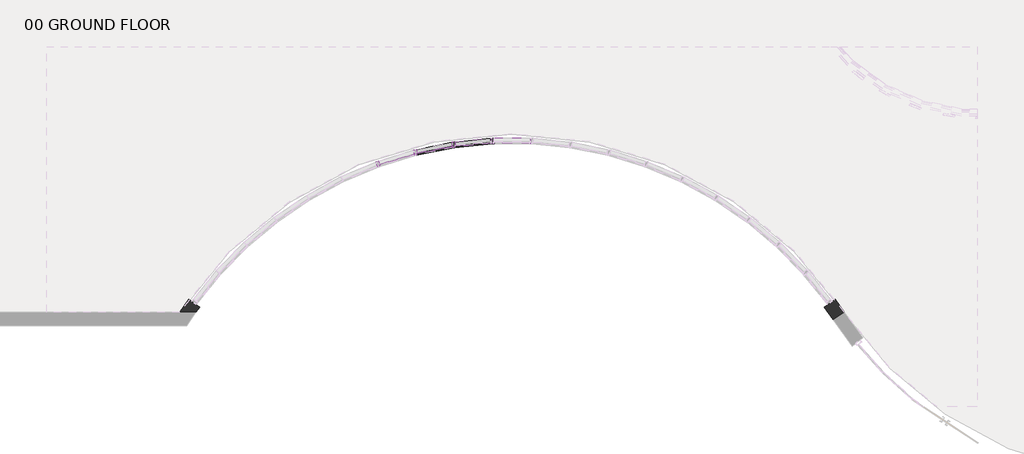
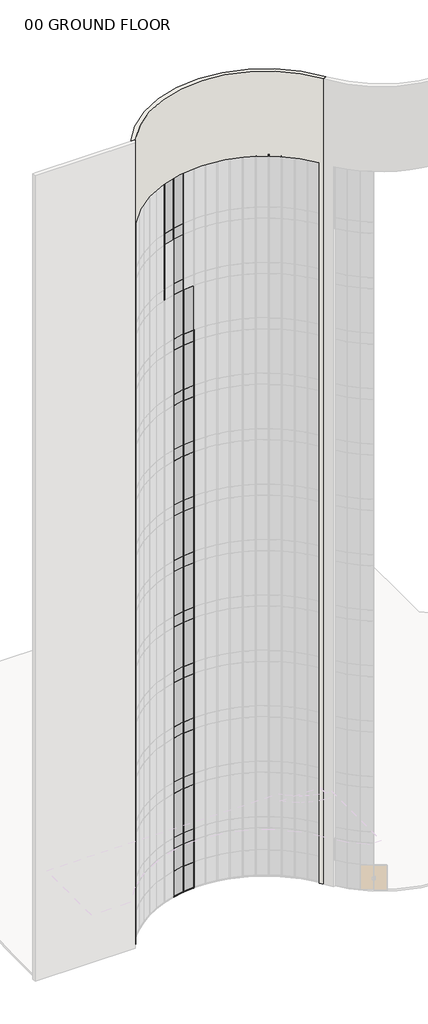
# One storey, part 7 of 33: 57 members, 50 plates, 1 wall.
"""IFC4 building model written with IfcOpenShell, lengths in millimetres."""

from ifc_helpers import new_model, si_unit, frame, origin, place, context, project, spatial, polyline, circle_curve, transform, mapped, element, save
from ifc_brep_helpers import plane_surface, cylinder_surface, revolved_surface, advanced_brep
from components import member_ab6b85c2, member_7cbddb58, member_d60e8053, member_410c6227, member_810865a4, member_9e61c091, system_panel_su_blue_992d2dbe, system_panel_su_blue_f02faf6b, system_panel_su_blue_144861c6, system_panel_su_blue_654c3fe2, system_panel_su_blue_af244712

model = new_model("IFC4")

# Units and contexts
model_context = context("Model", 3, world=origin())
ifc_project = project(units=[si_unit("LENGTHUNIT", "METRE", prefix="MILLI")], contexts=[model_context])

# Site, building, storey
site = spatial("IfcSite", under=ifc_project)
building = spatial("IfcBuilding", under=site)
storey = spatial("IfcBuildingStorey", under=building, Name="00 GROUND FLOOR", Elevation=0.0)

# Members
placement = place(None, origin())
member_shape = member_ab6b85c2(model_context)
element("IfcMember", 1, ObjectType="Rectangular Mullion : 2.5\" x 5\" rectangular", at=placement, inside=storey, context=model_context, shape_type="MappedRepresentation", body=[
    mapped(member_shape, transform((14675.4153922, 4078.3366857, 59436.0), x_axis=(0.0, 0.0, 1.0), y_axis=(0.0, 1.0, 0.0), z_axis=(-1.0, 0.0, 0.0))),
])
element("IfcMember", 2, ObjectType="Rectangular Mullion : 2.5\" x 5\" rectangular", at=placement, inside=storey, context=model_context, shape_type="MappedRepresentation", body=[
    mapped(member_shape, transform((13785.4642747, 3992.639603, 59436.0), x_axis=(0.0, 0.0, 1.0), y_axis=(-0.09936248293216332, 0.9950513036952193, 0.0), z_axis=(-0.9950513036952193, -0.09936248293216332, 0.0))),
])
element("IfcMember", 3, ObjectType="Rectangular Mullion : 2.5\" x 5\" rectangular", at=placement, inside=storey, context=model_context, shape_type="MappedRepresentation", body=[
    mapped(member_shape, transform((14612.0725133, 4075.1819269, 0.0), x_axis=(0.0, 0.0, -1.0), y_axis=(-0.09936248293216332, 0.9950513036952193, 0.0), z_axis=(0.9950513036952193, 0.09936248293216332, 0.0))),
])
element("IfcMember", 4, ObjectType="Rectangular Mullion : 2.5\" x 5\" rectangular", at=placement, inside=storey, context=model_context, shape_type="MappedRepresentation", body=[
    mapped(member_shape, transform((13722.7483252, 3983.2065504, 0.0), x_axis=(0.0, 0.0, -1.0), y_axis=(-0.19774153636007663, 0.9802541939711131, 0.0), z_axis=(0.9802541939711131, 0.19774153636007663, 0.0))),
])
member_2_shape = member_7cbddb58(model_context)
element("IfcMember", 5, ObjectType="Rectangular Mullion : 2.5\" x 5\" rectangular", at=placement, inside=storey, context=model_context, shape_type="MappedRepresentation", body=[
    mapped(member_2_shape, transform((14643.6653922, 4078.3366857, 0.0), x_axis=(-0.9987620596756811, -0.04974282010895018, 0.0), y_axis=(-0.04974282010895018, 0.9987620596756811, 0.0), z_axis=(0.0, 0.0, -1.0))),
])
element("IfcMember", 6, ObjectType="Rectangular Mullion : 2.5\" x 5\" rectangular", at=placement, inside=storey, context=model_context, shape_type="MappedRepresentation", body=[
    mapped(member_2_shape, transform((13753.8713958, 3989.4848442, 0.0), x_axis=(-0.9888769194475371, -0.14873613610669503, 0.0), y_axis=(-0.14873613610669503, 0.9888769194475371, 0.0), z_axis=(0.0, 0.0, -1.0))),
])
member_3_shape = member_d60e8053(model_context)
element("IfcMember", 7, ObjectType="Rectangular Mullion : 2.5\" x 5\" rectangular", at=placement, inside=storey, context=model_context, shape_type="MappedRepresentation", body=[
    mapped(member_3_shape, transform((14643.6653922, 4078.3366857, 2133.6), x_axis=(-0.9987620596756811, -0.04974282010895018, 0.0), y_axis=(-0.04974282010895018, 0.9987620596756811, 0.0), z_axis=(0.0, 0.0, -1.0))),
])
element("IfcMember", 8, ObjectType="Rectangular Mullion : 2.5\" x 5\" rectangular", at=placement, inside=storey, context=model_context, shape_type="MappedRepresentation", body=[
    mapped(member_3_shape, transform((13753.8713958, 3989.4848442, 2133.6), x_axis=(-0.9888769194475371, -0.14873613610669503, 0.0), y_axis=(-0.14873613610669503, 0.9888769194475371, 0.0), z_axis=(0.0, 0.0, -1.0))),
])
member_4_shape = member_410c6227(model_context)
element("IfcMember", 9, ObjectType="Rectangular Mullion : 2.5\" x 5\" rectangular", at=placement, inside=storey, context=model_context, shape_type="MappedRepresentation", body=[
    mapped(member_4_shape, transform((14643.6653922, 4078.3366857, 3962.4), x_axis=(-0.9987620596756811, -0.04974282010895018, 0.0), y_axis=(-0.04974282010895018, 0.9987620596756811, 0.0), z_axis=(0.0, 0.0, -1.0))),
])
element("IfcMember", 10, ObjectType="Rectangular Mullion : 2.5\" x 5\" rectangular", at=placement, inside=storey, context=model_context, shape_type="MappedRepresentation", body=[
    mapped(member_4_shape, transform((13753.8713958, 3989.4848442, 3962.4), x_axis=(-0.9888769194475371, -0.14873613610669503, 0.0), y_axis=(-0.14873613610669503, 0.9888769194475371, 0.0), z_axis=(0.0, 0.0, -1.0))),
])
element("IfcMember", 11, ObjectType="Rectangular Mullion : 2.5\" x 5\" rectangular", at=placement, inside=storey, context=model_context, shape_type="MappedRepresentation", body=[
    mapped(member_4_shape, transform((14643.6653922, 4078.3366857, 8534.4), x_axis=(-0.998762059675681, -0.049742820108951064, 0.0), y_axis=(-0.049742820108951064, 0.998762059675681, 0.0), z_axis=(0.0, 0.0, -1.0))),
])
element("IfcMember", 12, ObjectType="Rectangular Mullion : 2.5\" x 5\" rectangular", at=placement, inside=storey, context=model_context, shape_type="MappedRepresentation", body=[
    mapped(member_4_shape, transform((13753.8713958, 3989.4848442, 8534.4), x_axis=(-0.9888769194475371, -0.14873613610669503, 0.0), y_axis=(-0.14873613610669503, 0.9888769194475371, 0.0), z_axis=(0.0, 0.0, -1.0))),
])
element("IfcMember", 13, ObjectType="Rectangular Mullion : 2.5\" x 5\" rectangular", at=placement, inside=storey, context=model_context, shape_type="MappedRepresentation", body=[
    mapped(member_4_shape, transform((14643.6653922, 4078.3366857, 13106.4), x_axis=(-0.998762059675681, -0.049742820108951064, 0.0), y_axis=(-0.049742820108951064, 0.998762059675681, 0.0), z_axis=(0.0, 0.0, -1.0))),
])
element("IfcMember", 14, ObjectType="Rectangular Mullion : 2.5\" x 5\" rectangular", at=placement, inside=storey, context=model_context, shape_type="MappedRepresentation", body=[
    mapped(member_4_shape, transform((13753.8713958, 3989.4848442, 13106.4), x_axis=(-0.9888769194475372, -0.14873613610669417, 0.0), y_axis=(-0.14873613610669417, 0.9888769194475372, 0.0), z_axis=(0.0, 0.0, -1.0))),
])
element("IfcMember", 15, ObjectType="Rectangular Mullion : 2.5\" x 5\" rectangular", at=placement, inside=storey, context=model_context, shape_type="MappedRepresentation", body=[
    mapped(member_4_shape, transform((14643.6653922, 4078.3366857, 17678.4), x_axis=(-0.998762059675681, -0.049742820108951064, 0.0), y_axis=(-0.049742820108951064, 0.998762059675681, 0.0), z_axis=(0.0, 0.0, -1.0))),
])
element("IfcMember", 16, ObjectType="Rectangular Mullion : 2.5\" x 5\" rectangular", at=placement, inside=storey, context=model_context, shape_type="MappedRepresentation", body=[
    mapped(member_4_shape, transform((13753.8713958, 3989.4848442, 17678.4), x_axis=(-0.9888769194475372, -0.14873613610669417, 0.0), y_axis=(-0.14873613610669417, 0.9888769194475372, 0.0), z_axis=(0.0, 0.0, -1.0))),
])
element("IfcMember", 17, ObjectType="Rectangular Mullion : 2.5\" x 5\" rectangular", at=placement, inside=storey, context=model_context, shape_type="MappedRepresentation", body=[
    mapped(member_4_shape, transform((14643.6653922, 4078.3366857, 22250.4), x_axis=(-0.9987620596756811, -0.04974282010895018, 0.0), y_axis=(-0.04974282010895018, 0.9987620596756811, 0.0), z_axis=(0.0, 0.0, -1.0))),
])
element("IfcMember", 18, ObjectType="Rectangular Mullion : 2.5\" x 5\" rectangular", at=placement, inside=storey, context=model_context, shape_type="MappedRepresentation", body=[
    mapped(member_4_shape, transform((13753.8713958, 3989.4848442, 22250.4), x_axis=(-0.9888769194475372, -0.14873613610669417, 0.0), y_axis=(-0.14873613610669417, 0.9888769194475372, 0.0), z_axis=(0.0, 0.0, -1.0))),
])
element("IfcMember", 19, ObjectType="Rectangular Mullion : 2.5\" x 5\" rectangular", at=placement, inside=storey, context=model_context, shape_type="MappedRepresentation", body=[
    mapped(member_4_shape, transform((14643.6653922, 4078.3366857, 26822.4), x_axis=(-0.9987620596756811, -0.04974282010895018, 0.0), y_axis=(-0.04974282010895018, 0.9987620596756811, 0.0), z_axis=(0.0, 0.0, -1.0))),
])
element("IfcMember", 20, ObjectType="Rectangular Mullion : 2.5\" x 5\" rectangular", at=placement, inside=storey, context=model_context, shape_type="MappedRepresentation", body=[
    mapped(member_4_shape, transform((13753.8713958, 3989.4848442, 26822.4), x_axis=(-0.9888769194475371, -0.14873613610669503, 0.0), y_axis=(-0.14873613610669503, 0.9888769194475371, 0.0), z_axis=(0.0, 0.0, -1.0))),
])
element("IfcMember", 21, ObjectType="Rectangular Mullion : 2.5\" x 5\" rectangular", at=placement, inside=storey, context=model_context, shape_type="MappedRepresentation", body=[
    mapped(member_4_shape, transform((14643.6653922, 4078.3366857, 31394.4), x_axis=(-0.9987620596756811, -0.04974282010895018, 0.0), y_axis=(-0.04974282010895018, 0.9987620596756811, 0.0), z_axis=(0.0, 0.0, -1.0))),
])
element("IfcMember", 22, ObjectType="Rectangular Mullion : 2.5\" x 5\" rectangular", at=placement, inside=storey, context=model_context, shape_type="MappedRepresentation", body=[
    mapped(member_4_shape, transform((13753.8713958, 3989.4848442, 31394.4), x_axis=(-0.9888769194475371, -0.14873613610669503, 0.0), y_axis=(-0.14873613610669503, 0.9888769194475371, 0.0), z_axis=(0.0, 0.0, -1.0))),
])
element("IfcMember", 23, ObjectType="Rectangular Mullion : 2.5\" x 5\" rectangular", at=placement, inside=storey, context=model_context, shape_type="MappedRepresentation", body=[
    mapped(member_4_shape, transform((14643.6653922, 4078.3366857, 35966.4), x_axis=(-0.9987620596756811, -0.04974282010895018, 0.0), y_axis=(-0.04974282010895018, 0.9987620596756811, 0.0), z_axis=(0.0, 0.0, -1.0))),
])
element("IfcMember", 24, ObjectType="Rectangular Mullion : 2.5\" x 5\" rectangular", at=placement, inside=storey, context=model_context, shape_type="MappedRepresentation", body=[
    mapped(member_4_shape, transform((13753.8713958, 3989.4848442, 35966.4), x_axis=(-0.9888769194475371, -0.14873613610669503, 0.0), y_axis=(-0.14873613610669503, 0.9888769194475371, 0.0), z_axis=(0.0, 0.0, -1.0))),
])
element("IfcMember", 25, ObjectType="Rectangular Mullion : 2.5\" x 5\" rectangular", at=placement, inside=storey, context=model_context, shape_type="MappedRepresentation", body=[
    mapped(member_4_shape, transform((14643.6653922, 4078.3366857, 40538.4), x_axis=(-0.9987620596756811, -0.04974282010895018, 0.0), y_axis=(-0.04974282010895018, 0.9987620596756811, 0.0), z_axis=(0.0, 0.0, -1.0))),
])
element("IfcMember", 26, ObjectType="Rectangular Mullion : 2.5\" x 5\" rectangular", at=placement, inside=storey, context=model_context, shape_type="MappedRepresentation", body=[
    mapped(member_4_shape, transform((13753.8713958, 3989.4848442, 40538.4), x_axis=(-0.9888769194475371, -0.14873613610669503, 0.0), y_axis=(-0.14873613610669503, 0.9888769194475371, 0.0), z_axis=(0.0, 0.0, -1.0))),
])
element("IfcMember", 27, ObjectType="Rectangular Mullion : 2.5\" x 5\" rectangular", at=placement, inside=storey, context=model_context, shape_type="MappedRepresentation", body=[
    mapped(member_4_shape, transform((14643.6653922, 4078.3366857, 45110.4), x_axis=(-0.9987620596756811, -0.04974282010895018, 0.0), y_axis=(-0.04974282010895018, 0.9987620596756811, 0.0), z_axis=(0.0, 0.0, -1.0))),
])
element("IfcMember", 28, ObjectType="Rectangular Mullion : 2.5\" x 5\" rectangular", at=placement, inside=storey, context=model_context, shape_type="MappedRepresentation", body=[
    mapped(member_4_shape, transform((13753.8713958, 3989.4848442, 45110.4), x_axis=(-0.9888769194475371, -0.14873613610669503, 0.0), y_axis=(-0.14873613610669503, 0.9888769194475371, 0.0), z_axis=(0.0, 0.0, -1.0))),
])
element("IfcMember", 29, ObjectType="Rectangular Mullion : 2.5\" x 5\" rectangular", at=placement, inside=storey, context=model_context, shape_type="MappedRepresentation", body=[
    mapped(member_4_shape, transform((13753.8713958, 3989.4848442, 49682.4), x_axis=(-0.9888769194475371, -0.14873613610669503, 0.0), y_axis=(-0.14873613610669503, 0.9888769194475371, 0.0), z_axis=(0.0, 0.0, -1.0))),
])
element("IfcMember", 30, ObjectType="Rectangular Mullion : 2.5\" x 5\" rectangular", at=placement, inside=storey, context=model_context, shape_type="MappedRepresentation", body=[
    mapped(member_4_shape, transform((12022.6546623, 3549.6139404, 49682.4), x_axis=(-0.9399394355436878, -0.34134126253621, 0.0), y_axis=(-0.34134126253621, 0.9399394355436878, 0.0), z_axis=(0.0, 0.0, -1.0))),
])
element("IfcMember", 31, ObjectType="Rectangular Mullion : 2.5\" x 5\" rectangular", at=placement, inside=storey, context=model_context, shape_type="MappedRepresentation", body=[
    mapped(member_4_shape, transform((13753.8713958, 3989.4848442, 54254.4), x_axis=(-0.9888769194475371, -0.14873613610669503, 0.0), y_axis=(-0.14873613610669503, 0.9888769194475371, 0.0), z_axis=(0.0, 0.0, -1.0))),
])
element("IfcMember", 32, ObjectType="Rectangular Mullion : 2.5\" x 5\" rectangular", at=placement, inside=storey, context=model_context, shape_type="MappedRepresentation", body=[
    mapped(member_4_shape, transform((12877.3092593, 3812.6605626, 54254.4), x_axis=(-0.9692044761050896, -0.24625735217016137, 0.0), y_axis=(-0.24625735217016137, 0.9692044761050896, 0.0), z_axis=(0.0, 0.0, -1.0))),
])
element("IfcMember", 33, ObjectType="Rectangular Mullion : 2.5\" x 5\" rectangular", at=placement, inside=storey, context=model_context, shape_type="MappedRepresentation", body=[
    mapped(member_4_shape, transform((12022.6546623, 3549.6139404, 54254.4), x_axis=(-0.9399394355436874, -0.3413412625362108, 0.0), y_axis=(-0.3413412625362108, 0.9399394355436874, 0.0), z_axis=(0.0, 0.0, -1.0))),
])
member_5_shape = member_810865a4(model_context)
element("IfcMember", 34, ObjectType="Rectangular Mullion : 2.5\" x 5\" rectangular", at=placement, inside=storey, context=model_context, shape_type="MappedRepresentation", body=[
    mapped(member_5_shape, transform((14643.6653922, 4078.3366857, 4876.8), x_axis=(-0.998762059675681, -0.049742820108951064, 0.0), y_axis=(-0.049742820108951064, 0.998762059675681, 0.0), z_axis=(0.0, 0.0, -1.0))),
])
element("IfcMember", 35, ObjectType="Rectangular Mullion : 2.5\" x 5\" rectangular", at=placement, inside=storey, context=model_context, shape_type="MappedRepresentation", body=[
    mapped(member_5_shape, transform((13753.8713958, 3989.4848442, 4876.8), x_axis=(-0.9888769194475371, -0.14873613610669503, 0.0), y_axis=(-0.14873613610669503, 0.9888769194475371, 0.0), z_axis=(0.0, 0.0, -1.0))),
])
element("IfcMember", 36, ObjectType="Rectangular Mullion : 2.5\" x 5\" rectangular", at=placement, inside=storey, context=model_context, shape_type="MappedRepresentation", body=[
    mapped(member_5_shape, transform((14643.6653922, 4078.3366857, 9448.8), x_axis=(-0.998762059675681, -0.049742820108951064, 0.0), y_axis=(-0.049742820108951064, 0.998762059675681, 0.0), z_axis=(0.0, 0.0, -1.0))),
])
element("IfcMember", 37, ObjectType="Rectangular Mullion : 2.5\" x 5\" rectangular", at=placement, inside=storey, context=model_context, shape_type="MappedRepresentation", body=[
    mapped(member_5_shape, transform((13753.8713958, 3989.4848442, 9448.8), x_axis=(-0.9888769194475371, -0.14873613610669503, 0.0), y_axis=(-0.14873613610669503, 0.9888769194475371, 0.0), z_axis=(0.0, 0.0, -1.0))),
])
element("IfcMember", 38, ObjectType="Rectangular Mullion : 2.5\" x 5\" rectangular", at=placement, inside=storey, context=model_context, shape_type="MappedRepresentation", body=[
    mapped(member_5_shape, transform((14643.6653922, 4078.3366857, 14020.8), x_axis=(-0.998762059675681, -0.049742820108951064, 0.0), y_axis=(-0.049742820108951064, 0.998762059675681, 0.0), z_axis=(0.0, 0.0, -1.0))),
])
element("IfcMember", 39, ObjectType="Rectangular Mullion : 2.5\" x 5\" rectangular", at=placement, inside=storey, context=model_context, shape_type="MappedRepresentation", body=[
    mapped(member_5_shape, transform((13753.8713958, 3989.4848442, 14020.8), x_axis=(-0.9888769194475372, -0.14873613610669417, 0.0), y_axis=(-0.14873613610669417, 0.9888769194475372, 0.0), z_axis=(0.0, 0.0, -1.0))),
])
element("IfcMember", 40, ObjectType="Rectangular Mullion : 2.5\" x 5\" rectangular", at=placement, inside=storey, context=model_context, shape_type="MappedRepresentation", body=[
    mapped(member_5_shape, transform((14643.6653922, 4078.3366857, 18592.8), x_axis=(-0.9987620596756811, -0.04974282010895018, 0.0), y_axis=(-0.04974282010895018, 0.9987620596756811, 0.0), z_axis=(0.0, 0.0, -1.0))),
])
element("IfcMember", 41, ObjectType="Rectangular Mullion : 2.5\" x 5\" rectangular", at=placement, inside=storey, context=model_context, shape_type="MappedRepresentation", body=[
    mapped(member_5_shape, transform((13753.8713958, 3989.4848442, 18592.8), x_axis=(-0.9888769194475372, -0.14873613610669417, 0.0), y_axis=(-0.14873613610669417, 0.9888769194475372, 0.0), z_axis=(0.0, 0.0, -1.0))),
])
element("IfcMember", 42, ObjectType="Rectangular Mullion : 2.5\" x 5\" rectangular", at=placement, inside=storey, context=model_context, shape_type="MappedRepresentation", body=[
    mapped(member_5_shape, transform((14643.6653922, 4078.3366857, 23164.8), x_axis=(-0.9987620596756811, -0.04974282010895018, 0.0), y_axis=(-0.04974282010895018, 0.9987620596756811, 0.0), z_axis=(0.0, 0.0, -1.0))),
])
element("IfcMember", 43, ObjectType="Rectangular Mullion : 2.5\" x 5\" rectangular", at=placement, inside=storey, context=model_context, shape_type="MappedRepresentation", body=[
    mapped(member_5_shape, transform((13753.8713958, 3989.4848442, 23164.8), x_axis=(-0.9888769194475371, -0.14873613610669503, 0.0), y_axis=(-0.14873613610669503, 0.9888769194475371, 0.0), z_axis=(0.0, 0.0, -1.0))),
])
element("IfcMember", 44, ObjectType="Rectangular Mullion : 2.5\" x 5\" rectangular", at=placement, inside=storey, context=model_context, shape_type="MappedRepresentation", body=[
    mapped(member_5_shape, transform((14643.6653922, 4078.3366857, 27736.8), x_axis=(-0.9987620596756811, -0.04974282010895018, 0.0), y_axis=(-0.04974282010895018, 0.9987620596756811, 0.0), z_axis=(0.0, 0.0, -1.0))),
])
element("IfcMember", 45, ObjectType="Rectangular Mullion : 2.5\" x 5\" rectangular", at=placement, inside=storey, context=model_context, shape_type="MappedRepresentation", body=[
    mapped(member_5_shape, transform((13753.8713958, 3989.4848442, 27736.8), x_axis=(-0.9888769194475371, -0.14873613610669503, 0.0), y_axis=(-0.14873613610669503, 0.9888769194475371, 0.0), z_axis=(0.0, 0.0, -1.0))),
])
element("IfcMember", 46, ObjectType="Rectangular Mullion : 2.5\" x 5\" rectangular", at=placement, inside=storey, context=model_context, shape_type="MappedRepresentation", body=[
    mapped(member_5_shape, transform((14643.6653922, 4078.3366857, 32308.8), x_axis=(-0.9987620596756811, -0.04974282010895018, 0.0), y_axis=(-0.04974282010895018, 0.9987620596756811, 0.0), z_axis=(0.0, 0.0, -1.0))),
])
element("IfcMember", 47, ObjectType="Rectangular Mullion : 2.5\" x 5\" rectangular", at=placement, inside=storey, context=model_context, shape_type="MappedRepresentation", body=[
    mapped(member_5_shape, transform((13753.8713958, 3989.4848442, 32308.8), x_axis=(-0.988876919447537, -0.14873613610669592, 0.0), y_axis=(-0.14873613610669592, 0.988876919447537, 0.0), z_axis=(0.0, 0.0, -1.0))),
])
element("IfcMember", 48, ObjectType="Rectangular Mullion : 2.5\" x 5\" rectangular", at=placement, inside=storey, context=model_context, shape_type="MappedRepresentation", body=[
    mapped(member_5_shape, transform((14643.6653922, 4078.3366857, 36880.8), x_axis=(-0.9987620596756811, -0.04974282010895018, 0.0), y_axis=(-0.04974282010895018, 0.9987620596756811, 0.0), z_axis=(0.0, 0.0, -1.0))),
])
element("IfcMember", 49, ObjectType="Rectangular Mullion : 2.5\" x 5\" rectangular", at=placement, inside=storey, context=model_context, shape_type="MappedRepresentation", body=[
    mapped(member_5_shape, transform((13753.8713958, 3989.4848442, 36880.8), x_axis=(-0.9888769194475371, -0.14873613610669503, 0.0), y_axis=(-0.14873613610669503, 0.9888769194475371, 0.0), z_axis=(0.0, 0.0, -1.0))),
])
element("IfcMember", 50, ObjectType="Rectangular Mullion : 2.5\" x 5\" rectangular", at=placement, inside=storey, context=model_context, shape_type="MappedRepresentation", body=[
    mapped(member_5_shape, transform((14643.6653922, 4078.3366857, 41452.8), x_axis=(-0.9987620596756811, -0.04974282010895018, 0.0), y_axis=(-0.04974282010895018, 0.9987620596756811, 0.0), z_axis=(0.0, 0.0, -1.0))),
])
element("IfcMember", 51, ObjectType="Rectangular Mullion : 2.5\" x 5\" rectangular", at=placement, inside=storey, context=model_context, shape_type="MappedRepresentation", body=[
    mapped(member_5_shape, transform((13753.8713958, 3989.4848442, 41452.8), x_axis=(-0.9888769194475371, -0.14873613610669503, 0.0), y_axis=(-0.14873613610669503, 0.9888769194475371, 0.0), z_axis=(0.0, 0.0, -1.0))),
])
element("IfcMember", 52, ObjectType="Rectangular Mullion : 2.5\" x 5\" rectangular", at=placement, inside=storey, context=model_context, shape_type="MappedRepresentation", body=[
    mapped(member_5_shape, transform((13753.8713958, 3989.4848442, 46024.8), x_axis=(-0.9888769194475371, -0.14873613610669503, 0.0), y_axis=(-0.14873613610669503, 0.9888769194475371, 0.0), z_axis=(0.0, 0.0, -1.0))),
])
element("IfcMember", 53, ObjectType="Rectangular Mullion : 2.5\" x 5\" rectangular", at=placement, inside=storey, context=model_context, shape_type="MappedRepresentation", body=[
    mapped(member_5_shape, transform((13753.8713958, 3989.4848442, 50596.8), x_axis=(-0.9888769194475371, -0.14873613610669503, 0.0), y_axis=(-0.14873613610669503, 0.9888769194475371, 0.0), z_axis=(0.0, 0.0, -1.0))),
])
element("IfcMember", 54, ObjectType="Rectangular Mullion : 2.5\" x 5\" rectangular", at=placement, inside=storey, context=model_context, shape_type="MappedRepresentation", body=[
    mapped(member_5_shape, transform((12022.6546623, 3549.6139404, 50596.8), x_axis=(-0.9399394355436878, -0.34134126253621, 0.0), y_axis=(-0.34134126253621, 0.9399394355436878, 0.0), z_axis=(0.0, 0.0, -1.0))),
])
member_6_shape = member_9e61c091(model_context)
element("IfcMember", 55, ObjectType="Rectangular Mullion : 2.5\" x 5\" rectangular", at=placement, inside=storey, context=model_context, shape_type="MappedRepresentation", body=[
    mapped(member_6_shape, transform((13753.8713958, 3989.4848442, 55168.8), x_axis=(-0.9888769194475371, -0.14873613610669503, 0.0), y_axis=(-0.14873613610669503, 0.9888769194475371, 0.0), z_axis=(0.0, 0.0, -1.0))),
])
element("IfcMember", 56, ObjectType="Rectangular Mullion : 2.5\" x 5\" rectangular", at=placement, inside=storey, context=model_context, shape_type="MappedRepresentation", body=[
    mapped(member_6_shape, transform((12877.3092593, 3812.6605626, 55168.8), x_axis=(-0.9692044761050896, -0.24625735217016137, 0.0), y_axis=(-0.24625735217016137, 0.9692044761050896, 0.0), z_axis=(0.0, 0.0, -1.0))),
])
element("IfcMember", 57, ObjectType="Rectangular Mullion : 2.5\" x 5\" rectangular", at=placement, inside=storey, context=model_context, shape_type="MappedRepresentation", body=[
    mapped(member_6_shape, transform((12022.6546623, 3549.6139404, 55168.8), x_axis=(-0.9399394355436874, -0.3413412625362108, 0.0), y_axis=(-0.3413412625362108, 0.9399394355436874, 0.0), z_axis=(0.0, 0.0, -1.0))),
])

# Plates
system_panel_su_blue_shape = system_panel_su_blue_992d2dbe(model_context)
element("IfcPlate", 58, ObjectType="System Panel : SU_BLUE", at=placement, inside=storey, context=model_context, shape_type="MappedRepresentation", body=[
    mapped(system_panel_su_blue_shape, transform((14198.768394, 4033.910765, 63.5), x_axis=(-0.9950513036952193, -0.09936248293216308, 0.0), y_axis=(0.09936248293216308, -0.9950513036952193, 0.0), z_axis=(0.0, 0.0, 1.0))),
])
element("IfcPlate", 59, ObjectType="System Panel : SU_BLUE", at=placement, inside=storey, context=model_context, shape_type="MappedRepresentation", body=[
    mapped(system_panel_su_blue_shape, transform((13315.5903276, 3901.0727034, 63.5), x_axis=(-0.9802541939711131, -0.19774153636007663, 0.0), y_axis=(0.19774153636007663, -0.9802541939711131, 0.0), z_axis=(0.0, 0.0, 1.0))),
])
system_panel_su_blue_2_shape = system_panel_su_blue_f02faf6b(model_context)
element("IfcPlate", 60, ObjectType="System Panel : SU_BLUE", at=placement, inside=storey, context=model_context, shape_type="MappedRepresentation", body=[
    mapped(system_panel_su_blue_2_shape, transform((14198.768394, 4033.910765, 2133.6), x_axis=(-0.9950513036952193, -0.09936248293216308, 0.0), y_axis=(0.09936248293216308, -0.9950513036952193, 0.0), z_axis=(0.0, 0.0, 1.0))),
])
element("IfcPlate", 61, ObjectType="System Panel : SU_BLUE", at=placement, inside=storey, context=model_context, shape_type="MappedRepresentation", body=[
    mapped(system_panel_su_blue_2_shape, transform((13315.5903276, 3901.0727034, 2133.6), x_axis=(-0.9802541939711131, -0.19774153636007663, 0.0), y_axis=(0.19774153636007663, -0.9802541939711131, 0.0), z_axis=(0.0, 0.0, 1.0))),
])
system_panel_su_blue_3_shape = system_panel_su_blue_144861c6(model_context)
element("IfcPlate", 62, ObjectType="System Panel : SU_BLUE", at=placement, inside=storey, context=model_context, shape_type="MappedRepresentation", body=[
    mapped(system_panel_su_blue_3_shape, transform((14198.768394, 4033.910765, 3962.4), x_axis=(-0.9950513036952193, -0.09936248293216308, 0.0), y_axis=(0.09936248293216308, -0.9950513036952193, 0.0), z_axis=(0.0, 0.0, 1.0))),
])
element("IfcPlate", 63, ObjectType="System Panel : SU_BLUE", at=placement, inside=storey, context=model_context, shape_type="MappedRepresentation", body=[
    mapped(system_panel_su_blue_3_shape, transform((13315.5903276, 3901.0727034, 3962.4), x_axis=(-0.9802541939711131, -0.19774153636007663, 0.0), y_axis=(0.19774153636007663, -0.9802541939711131, 0.0), z_axis=(0.0, 0.0, 1.0))),
])
element("IfcPlate", 64, ObjectType="System Panel : SU_BLUE", at=placement, inside=storey, context=model_context, shape_type="MappedRepresentation", body=[
    mapped(system_panel_su_blue_3_shape, transform((14198.768394, 4033.910765, 8534.4), x_axis=(-0.9950513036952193, -0.09936248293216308, 0.0), y_axis=(0.09936248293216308, -0.9950513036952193, 0.0), z_axis=(0.0, 0.0, 1.0))),
])
element("IfcPlate", 65, ObjectType="System Panel : SU_BLUE", at=placement, inside=storey, context=model_context, shape_type="MappedRepresentation", body=[
    mapped(system_panel_su_blue_3_shape, transform((13315.5903276, 3901.0727034, 8534.4), x_axis=(-0.9802541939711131, -0.19774153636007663, 0.0), y_axis=(0.19774153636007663, -0.9802541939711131, 0.0), z_axis=(0.0, 0.0, 1.0))),
])
element("IfcPlate", 66, ObjectType="System Panel : SU_BLUE", at=placement, inside=storey, context=model_context, shape_type="MappedRepresentation", body=[
    mapped(system_panel_su_blue_3_shape, transform((14198.768394, 4033.910765, 13106.4), x_axis=(-0.9950513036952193, -0.09936248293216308, 0.0), y_axis=(0.09936248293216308, -0.9950513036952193, 0.0), z_axis=(0.0, 0.0, 1.0))),
])
element("IfcPlate", 67, ObjectType="System Panel : SU_BLUE", at=placement, inside=storey, context=model_context, shape_type="MappedRepresentation", body=[
    mapped(system_panel_su_blue_3_shape, transform((13315.5903276, 3901.0727034, 13106.4), x_axis=(-0.9802541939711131, -0.19774153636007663, 0.0), y_axis=(0.19774153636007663, -0.9802541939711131, 0.0), z_axis=(0.0, 0.0, 1.0))),
])
element("IfcPlate", 68, ObjectType="System Panel : SU_BLUE", at=placement, inside=storey, context=model_context, shape_type="MappedRepresentation", body=[
    mapped(system_panel_su_blue_3_shape, transform((14198.768394, 4033.910765, 17678.4), x_axis=(-0.9950513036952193, -0.09936248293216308, 0.0), y_axis=(0.09936248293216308, -0.9950513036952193, 0.0), z_axis=(0.0, 0.0, 1.0))),
])
element("IfcPlate", 69, ObjectType="System Panel : SU_BLUE", at=placement, inside=storey, context=model_context, shape_type="MappedRepresentation", body=[
    mapped(system_panel_su_blue_3_shape, transform((13315.5903276, 3901.0727034, 17678.4), x_axis=(-0.9802541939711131, -0.19774153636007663, 0.0), y_axis=(0.19774153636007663, -0.9802541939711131, 0.0), z_axis=(0.0, 0.0, 1.0))),
])
element("IfcPlate", 70, ObjectType="System Panel : SU_BLUE", at=placement, inside=storey, context=model_context, shape_type="MappedRepresentation", body=[
    mapped(system_panel_su_blue_3_shape, transform((14198.768394, 4033.910765, 22250.4), x_axis=(-0.9950513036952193, -0.09936248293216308, 0.0), y_axis=(0.09936248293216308, -0.9950513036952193, 0.0), z_axis=(0.0, 0.0, 1.0))),
])
element("IfcPlate", 71, ObjectType="System Panel : SU_BLUE", at=placement, inside=storey, context=model_context, shape_type="MappedRepresentation", body=[
    mapped(system_panel_su_blue_3_shape, transform((13315.5903276, 3901.0727034, 22250.4), x_axis=(-0.9802541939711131, -0.19774153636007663, 0.0), y_axis=(0.19774153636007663, -0.9802541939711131, 0.0), z_axis=(0.0, 0.0, 1.0))),
])
element("IfcPlate", 72, ObjectType="System Panel : SU_BLUE", at=placement, inside=storey, context=model_context, shape_type="MappedRepresentation", body=[
    mapped(system_panel_su_blue_3_shape, transform((14198.768394, 4033.910765, 26822.4), x_axis=(-0.9950513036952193, -0.09936248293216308, 0.0), y_axis=(0.09936248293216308, -0.9950513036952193, 0.0), z_axis=(0.0, 0.0, 1.0))),
])
element("IfcPlate", 73, ObjectType="System Panel : SU_BLUE", at=placement, inside=storey, context=model_context, shape_type="MappedRepresentation", body=[
    mapped(system_panel_su_blue_3_shape, transform((13315.5903276, 3901.0727034, 26822.4), x_axis=(-0.9802541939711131, -0.19774153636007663, 0.0), y_axis=(0.19774153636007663, -0.9802541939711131, 0.0), z_axis=(0.0, 0.0, 1.0))),
])
element("IfcPlate", 74, ObjectType="System Panel : SU_BLUE", at=placement, inside=storey, context=model_context, shape_type="MappedRepresentation", body=[
    mapped(system_panel_su_blue_3_shape, transform((14198.768394, 4033.910765, 31394.4), x_axis=(-0.9950513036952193, -0.09936248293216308, 0.0), y_axis=(0.09936248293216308, -0.9950513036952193, 0.0), z_axis=(0.0, 0.0, 1.0))),
])
element("IfcPlate", 75, ObjectType="System Panel : SU_BLUE", at=placement, inside=storey, context=model_context, shape_type="MappedRepresentation", body=[
    mapped(system_panel_su_blue_3_shape, transform((13315.5903276, 3901.0727034, 31394.4), x_axis=(-0.9802541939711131, -0.19774153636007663, 0.0), y_axis=(0.19774153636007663, -0.9802541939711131, 0.0), z_axis=(0.0, 0.0, 1.0))),
])
element("IfcPlate", 76, ObjectType="System Panel : SU_BLUE", at=placement, inside=storey, context=model_context, shape_type="MappedRepresentation", body=[
    mapped(system_panel_su_blue_3_shape, transform((14198.768394, 4033.910765, 35966.4), x_axis=(-0.9950513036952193, -0.09936248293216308, 0.0), y_axis=(0.09936248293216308, -0.9950513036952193, 0.0), z_axis=(0.0, 0.0, 1.0))),
])
element("IfcPlate", 77, ObjectType="System Panel : SU_BLUE", at=placement, inside=storey, context=model_context, shape_type="MappedRepresentation", body=[
    mapped(system_panel_su_blue_3_shape, transform((13315.5903276, 3901.0727034, 35966.4), x_axis=(-0.9802541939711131, -0.19774153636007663, 0.0), y_axis=(0.19774153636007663, -0.9802541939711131, 0.0), z_axis=(0.0, 0.0, 1.0))),
])
element("IfcPlate", 78, ObjectType="System Panel : SU_BLUE", at=placement, inside=storey, context=model_context, shape_type="MappedRepresentation", body=[
    mapped(system_panel_su_blue_3_shape, transform((14198.768394, 4033.910765, 40538.4), x_axis=(-0.9950513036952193, -0.09936248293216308, 0.0), y_axis=(0.09936248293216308, -0.9950513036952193, 0.0), z_axis=(0.0, 0.0, 1.0))),
])
element("IfcPlate", 79, ObjectType="System Panel : SU_BLUE", at=placement, inside=storey, context=model_context, shape_type="MappedRepresentation", body=[
    mapped(system_panel_su_blue_3_shape, transform((13315.5903276, 3901.0727034, 40538.4), x_axis=(-0.9802541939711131, -0.19774153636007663, 0.0), y_axis=(0.19774153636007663, -0.9802541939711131, 0.0), z_axis=(0.0, 0.0, 1.0))),
])
element("IfcPlate", 80, ObjectType="System Panel : SU_BLUE", at=placement, inside=storey, context=model_context, shape_type="MappedRepresentation", body=[
    mapped(system_panel_su_blue_3_shape, transform((14198.768394, 4033.910765, 45110.4), x_axis=(-0.9950513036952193, -0.09936248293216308, 0.0), y_axis=(0.09936248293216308, -0.9950513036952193, 0.0), z_axis=(0.0, 0.0, 1.0))),
])
element("IfcPlate", 81, ObjectType="System Panel : SU_BLUE", at=placement, inside=storey, context=model_context, shape_type="MappedRepresentation", body=[
    mapped(system_panel_su_blue_3_shape, transform((13315.5903276, 3901.0727034, 45110.4), x_axis=(-0.9802541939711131, -0.19774153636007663, 0.0), y_axis=(0.19774153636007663, -0.9802541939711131, 0.0), z_axis=(0.0, 0.0, 1.0))),
])
element("IfcPlate", 82, ObjectType="System Panel : SU_BLUE", at=placement, inside=storey, context=model_context, shape_type="MappedRepresentation", body=[
    mapped(system_panel_su_blue_3_shape, transform((13315.5903276, 3901.0727034, 49682.4), x_axis=(-0.9802541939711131, -0.19774153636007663, 0.0), y_axis=(0.19774153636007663, -0.9802541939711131, 0.0), z_axis=(0.0, 0.0, 1.0))),
])
element("IfcPlate", 83, ObjectType="System Panel : SU_BLUE", at=placement, inside=storey, context=model_context, shape_type="MappedRepresentation", body=[
    mapped(system_panel_su_blue_3_shape, transform((13315.5903276, 3901.0727034, 54254.4), x_axis=(-0.9802541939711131, -0.19774153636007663, 0.0), y_axis=(0.19774153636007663, -0.9802541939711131, 0.0), z_axis=(0.0, 0.0, 1.0))),
])
element("IfcPlate", 84, ObjectType="System Panel : SU_BLUE", at=placement, inside=storey, context=model_context, shape_type="MappedRepresentation", body=[
    mapped(system_panel_su_blue_3_shape, transform((12449.9819608, 3681.1372515, 54254.4), x_axis=(-0.9557551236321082, -0.2941634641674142, 0.0), y_axis=(0.2941634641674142, -0.9557551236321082, 0.0), z_axis=(0.0, 0.0, 1.0))),
])
system_panel_su_blue_4_shape = system_panel_su_blue_654c3fe2(model_context)
element("IfcPlate", 85, ObjectType="System Panel : SU_BLUE", at=placement, inside=storey, context=model_context, shape_type="MappedRepresentation", body=[
    mapped(system_panel_su_blue_4_shape, transform((14198.768394, 4033.910765, 4876.8), x_axis=(-0.9950513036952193, -0.09936248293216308, 0.0), y_axis=(0.09936248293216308, -0.9950513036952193, 0.0), z_axis=(0.0, 0.0, 1.0))),
])
element("IfcPlate", 86, ObjectType="System Panel : SU_BLUE", at=placement, inside=storey, context=model_context, shape_type="MappedRepresentation", body=[
    mapped(system_panel_su_blue_4_shape, transform((13315.5903276, 3901.0727034, 4876.8), x_axis=(-0.9802541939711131, -0.19774153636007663, 0.0), y_axis=(0.19774153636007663, -0.9802541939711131, 0.0), z_axis=(0.0, 0.0, 1.0))),
])
element("IfcPlate", 87, ObjectType="System Panel : SU_BLUE", at=placement, inside=storey, context=model_context, shape_type="MappedRepresentation", body=[
    mapped(system_panel_su_blue_4_shape, transform((14198.768394, 4033.910765, 9448.8), x_axis=(-0.9950513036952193, -0.09936248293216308, 0.0), y_axis=(0.09936248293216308, -0.9950513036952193, 0.0), z_axis=(0.0, 0.0, 1.0))),
])
element("IfcPlate", 88, ObjectType="System Panel : SU_BLUE", at=placement, inside=storey, context=model_context, shape_type="MappedRepresentation", body=[
    mapped(system_panel_su_blue_4_shape, transform((13315.5903276, 3901.0727034, 9448.8), x_axis=(-0.9802541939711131, -0.19774153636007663, 0.0), y_axis=(0.19774153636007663, -0.9802541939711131, 0.0), z_axis=(0.0, 0.0, 1.0))),
])
element("IfcPlate", 89, ObjectType="System Panel : SU_BLUE", at=placement, inside=storey, context=model_context, shape_type="MappedRepresentation", body=[
    mapped(system_panel_su_blue_4_shape, transform((14198.768394, 4033.910765, 14020.8), x_axis=(-0.9950513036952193, -0.09936248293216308, 0.0), y_axis=(0.09936248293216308, -0.9950513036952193, 0.0), z_axis=(0.0, 0.0, 1.0))),
])
element("IfcPlate", 90, ObjectType="System Panel : SU_BLUE", at=placement, inside=storey, context=model_context, shape_type="MappedRepresentation", body=[
    mapped(system_panel_su_blue_4_shape, transform((13315.5903276, 3901.0727034, 14020.8), x_axis=(-0.9802541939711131, -0.19774153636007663, 0.0), y_axis=(0.19774153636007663, -0.9802541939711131, 0.0), z_axis=(0.0, 0.0, 1.0))),
])
element("IfcPlate", 91, ObjectType="System Panel : SU_BLUE", at=placement, inside=storey, context=model_context, shape_type="MappedRepresentation", body=[
    mapped(system_panel_su_blue_4_shape, transform((14198.768394, 4033.910765, 18592.8), x_axis=(-0.9950513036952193, -0.09936248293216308, 0.0), y_axis=(0.09936248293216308, -0.9950513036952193, 0.0), z_axis=(0.0, 0.0, 1.0))),
])
element("IfcPlate", 92, ObjectType="System Panel : SU_BLUE", at=placement, inside=storey, context=model_context, shape_type="MappedRepresentation", body=[
    mapped(system_panel_su_blue_4_shape, transform((13315.5903276, 3901.0727034, 18592.8), x_axis=(-0.9802541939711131, -0.19774153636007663, 0.0), y_axis=(0.19774153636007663, -0.9802541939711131, 0.0), z_axis=(0.0, 0.0, 1.0))),
])
element("IfcPlate", 93, ObjectType="System Panel : SU_BLUE", at=placement, inside=storey, context=model_context, shape_type="MappedRepresentation", body=[
    mapped(system_panel_su_blue_4_shape, transform((14198.768394, 4033.910765, 23164.8), x_axis=(-0.9950513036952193, -0.09936248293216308, 0.0), y_axis=(0.09936248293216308, -0.9950513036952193, 0.0), z_axis=(0.0, 0.0, 1.0))),
])
element("IfcPlate", 94, ObjectType="System Panel : SU_BLUE", at=placement, inside=storey, context=model_context, shape_type="MappedRepresentation", body=[
    mapped(system_panel_su_blue_4_shape, transform((13315.5903276, 3901.0727034, 23164.8), x_axis=(-0.9802541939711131, -0.19774153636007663, 0.0), y_axis=(0.19774153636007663, -0.9802541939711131, 0.0), z_axis=(0.0, 0.0, 1.0))),
])
element("IfcPlate", 95, ObjectType="System Panel : SU_BLUE", at=placement, inside=storey, context=model_context, shape_type="MappedRepresentation", body=[
    mapped(system_panel_su_blue_4_shape, transform((14198.768394, 4033.910765, 27736.8), x_axis=(-0.9950513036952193, -0.09936248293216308, 0.0), y_axis=(0.09936248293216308, -0.9950513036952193, 0.0), z_axis=(0.0, 0.0, 1.0))),
])
element("IfcPlate", 96, ObjectType="System Panel : SU_BLUE", at=placement, inside=storey, context=model_context, shape_type="MappedRepresentation", body=[
    mapped(system_panel_su_blue_4_shape, transform((13315.5903276, 3901.0727034, 27736.8), x_axis=(-0.9802541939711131, -0.19774153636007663, 0.0), y_axis=(0.19774153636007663, -0.9802541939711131, 0.0), z_axis=(0.0, 0.0, 1.0))),
])
element("IfcPlate", 97, ObjectType="System Panel : SU_BLUE", at=placement, inside=storey, context=model_context, shape_type="MappedRepresentation", body=[
    mapped(system_panel_su_blue_4_shape, transform((14198.768394, 4033.910765, 32308.8), x_axis=(-0.9950513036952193, -0.09936248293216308, 0.0), y_axis=(0.09936248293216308, -0.9950513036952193, 0.0), z_axis=(0.0, 0.0, 1.0))),
])
element("IfcPlate", 98, ObjectType="System Panel : SU_BLUE", at=placement, inside=storey, context=model_context, shape_type="MappedRepresentation", body=[
    mapped(system_panel_su_blue_4_shape, transform((13315.5903276, 3901.0727034, 32308.8), x_axis=(-0.9802541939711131, -0.19774153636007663, 0.0), y_axis=(0.19774153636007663, -0.9802541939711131, 0.0), z_axis=(0.0, 0.0, 1.0))),
])
element("IfcPlate", 99, ObjectType="System Panel : SU_BLUE", at=placement, inside=storey, context=model_context, shape_type="MappedRepresentation", body=[
    mapped(system_panel_su_blue_4_shape, transform((14198.768394, 4033.910765, 36880.8), x_axis=(-0.9950513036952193, -0.09936248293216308, 0.0), y_axis=(0.09936248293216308, -0.9950513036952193, 0.0), z_axis=(0.0, 0.0, 1.0))),
])
element("IfcPlate", 100, ObjectType="System Panel : SU_BLUE", at=placement, inside=storey, context=model_context, shape_type="MappedRepresentation", body=[
    mapped(system_panel_su_blue_4_shape, transform((13315.5903276, 3901.0727034, 36880.8), x_axis=(-0.9802541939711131, -0.19774153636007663, 0.0), y_axis=(0.19774153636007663, -0.9802541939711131, 0.0), z_axis=(0.0, 0.0, 1.0))),
])
element("IfcPlate", 101, ObjectType="System Panel : SU_BLUE", at=placement, inside=storey, context=model_context, shape_type="MappedRepresentation", body=[
    mapped(system_panel_su_blue_4_shape, transform((14198.768394, 4033.910765, 41452.8), x_axis=(-0.9950513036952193, -0.09936248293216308, 0.0), y_axis=(0.09936248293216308, -0.9950513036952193, 0.0), z_axis=(0.0, 0.0, 1.0))),
])
element("IfcPlate", 102, ObjectType="System Panel : SU_BLUE", at=placement, inside=storey, context=model_context, shape_type="MappedRepresentation", body=[
    mapped(system_panel_su_blue_4_shape, transform((13315.5903276, 3901.0727034, 41452.8), x_axis=(-0.9802541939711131, -0.19774153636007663, 0.0), y_axis=(0.19774153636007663, -0.9802541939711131, 0.0), z_axis=(0.0, 0.0, 1.0))),
])
element("IfcPlate", 103, ObjectType="System Panel : SU_BLUE", at=placement, inside=storey, context=model_context, shape_type="MappedRepresentation", body=[
    mapped(system_panel_su_blue_4_shape, transform((14198.768394, 4033.910765, 46024.8), x_axis=(-0.9950513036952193, -0.09936248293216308, 0.0), y_axis=(0.09936248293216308, -0.9950513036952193, 0.0), z_axis=(0.0, 0.0, 1.0))),
])
element("IfcPlate", 104, ObjectType="System Panel : SU_BLUE", at=placement, inside=storey, context=model_context, shape_type="MappedRepresentation", body=[
    mapped(system_panel_su_blue_4_shape, transform((13315.5903276, 3901.0727034, 46024.8), x_axis=(-0.9802541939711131, -0.19774153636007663, 0.0), y_axis=(0.19774153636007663, -0.9802541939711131, 0.0), z_axis=(0.0, 0.0, 1.0))),
])
element("IfcPlate", 105, ObjectType="System Panel : SU_BLUE", at=placement, inside=storey, context=model_context, shape_type="MappedRepresentation", body=[
    mapped(system_panel_su_blue_4_shape, transform((13315.5903276, 3901.0727034, 50596.8), x_axis=(-0.9802541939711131, -0.19774153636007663, 0.0), y_axis=(0.19774153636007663, -0.9802541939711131, 0.0), z_axis=(0.0, 0.0, 1.0))),
])
system_panel_su_blue_5_shape = system_panel_su_blue_af244712(model_context)
element("IfcPlate", 106, ObjectType="System Panel : SU_BLUE", at=placement, inside=storey, context=model_context, shape_type="MappedRepresentation", body=[
    mapped(system_panel_su_blue_5_shape, transform((13315.5903276, 3901.0727034, 55168.8), x_axis=(-0.9802541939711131, -0.19774153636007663, 0.0), y_axis=(0.19774153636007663, -0.9802541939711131, 0.0), z_axis=(0.0, 0.0, 1.0))),
])
element("IfcPlate", 107, ObjectType="System Panel : SU_BLUE", at=placement, inside=storey, context=model_context, shape_type="MappedRepresentation", body=[
    mapped(system_panel_su_blue_5_shape, transform((12449.9819608, 3681.1372515, 55168.8), x_axis=(-0.9557551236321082, -0.2941634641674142, 0.0), y_axis=(0.2941634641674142, -0.9557551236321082, 0.0), z_axis=(0.0, 0.0, 1.0))),
])

# Wall
element("IfcWall", 108, ObjectType="Exterior - MAIN EIFS WITH LGMF", at=placement, inside=storey, context=model_context, shape_type="AdvancedBrep", body=[
    advanced_brep(
    [(7847.0947805, 155.575, 66446.4), (22451.4833333, -16.4196339, 66446.4), (22710.775, 155.575, 66446.4), (7470.775, 155.575, 66446.4), (22710.775, 155.575, 0.0), (22451.4833333, -16.4196339, 0.0), (22252.3783503, 271.2106325, 0.0), (22504.6562541, 453.3374613, 0.0), (7847.0947805, 155.575, 0.0), (7470.775, 155.575, 0.0), (7676.8937459, 453.3374613, 0.0), (7929.1716497, 271.2106325, 0.0), (7929.1716497, 271.2106325, 59436.0), (22252.3783503, 271.2106325, 59436.0), (22504.6562541, 453.3374613, 59436.0), (7676.8937459, 453.3374613, 59436.0)],
    [
        (0, 1, circle_curve(frame((15090.775, -4898.9611805, 66446.4), z_axis=(0.0, 0.0, -1.0), x_axis=(1.0, 0.0, 0.0)), 8832.85)),
        (1, 2),
        (2, 3, circle_curve(frame((15090.775, -4898.9611805, 66446.4), z_axis=(0.0, 0.0, 1.0), x_axis=(1.0, 0.0, 0.0)), 9144.0)),
        (3, 0),
        (4, 5),
        (5, 6, circle_curve(frame((15090.775, -4898.9611805, 0.0), z_axis=(0.0, 0.0, 1.0), x_axis=(1.0, 0.0, 0.0)), 8832.85)),
        (6, 7),
        (7, 4, circle_curve(frame((15090.775, -4898.9611805, 0.0), z_axis=(0.0, 0.0, -1.0), x_axis=(1.0, 0.0, 0.0)), 9144.0)),
        (8, 9),
        (9, 10, circle_curve(frame((15090.775, -4898.9611805, 0.0), z_axis=(0.0, 0.0, -1.0), x_axis=(1.0, 0.0, 0.0)), 9144.0)),
        (10, 11),
        (11, 8, circle_curve(frame((15090.775, -4898.9611805, 0.0), z_axis=(0.0, 0.0, 1.0), x_axis=(1.0, 0.0, 0.0)), 8832.85)),
        (0, 8),
        (11, 12),
        (12, 13, circle_curve(frame((15090.775, -4898.9611805, 59436.0), z_axis=(0.0, 0.0, -1.0), x_axis=(1.0, 0.0, 0.0)), 8832.85)),
        (13, 6),
        (5, 1),
        (4, 2),
        (7, 14),
        (14, 15, circle_curve(frame((15090.775, -4898.9611805, 59436.0), z_axis=(0.0, 0.0, 1.0), x_axis=(1.0, 0.0, 0.0)), 9144.0)),
        (15, 10),
        (9, 3),
        (14, 13),
        (12, 15),
    ],
    [
        plane_surface(frame((23923.625, -4898.9611805, 66446.4), z_axis=(0.0, 0.0, 1.0), x_axis=(0.0, -1.0, 0.0))),
        plane_surface(frame((23923.625, -4898.9611805, 0.0), z_axis=(0.0, 0.0, -1.0), x_axis=(0.0, 1.0, 0.0))),
        revolved_surface(polyline([(23923.625, -4898.9611805, 0.0), (23923.625, -4898.9611805, 66446.4)]), (15090.775, -4898.9611805, 0.0), (0.0, 0.0, -1.0)),
        plane_surface(frame((22451.4833333, -16.4196339, 66446.4), z_axis=(0.5527707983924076, -0.8333333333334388, 0.0), x_axis=(0.0, 0.0, -1.0))),
        cylinder_surface(frame((15090.775, -4898.9611805, 0.0), z_axis=(0.0, 0.0, 1.0), x_axis=(1.0, 0.0, 0.0)), 9144.0),
        plane_surface(frame((7470.775, 155.575, 0.0), z_axis=(0.0, -1.0, 0.0), x_axis=(-1.0, 0.0, 0.0))),
        plane_surface(frame((15090.775, 3781.4888195, 59436.0), z_axis=(0.0, 0.0, -1.0), x_axis=(-1.0, 0.0, 0.0))),
        plane_surface(frame((8052.7363373, 182.0056551, 29718.0), z_axis=(0.5853344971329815, 0.8107919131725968, 0.0), x_axis=(0.0, 0.0, -1.0))),
        plane_surface(frame((22128.8136627, 182.0056551, 29718.0), z_axis=(-0.5853344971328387, 0.8107919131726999, 0.0), x_axis=(0.0, 0.0, 1.0))),
    ],
    [
        (0, [[1, 2, 3, 4]]),
        (1, [[5, 6, 7, 8]]),
        (1, [[9, 10, 11, 12]]),
        (2, [[-1, 13, -12, 14, 15, 16, -6, 17]]),
        (3, [[-2, -17, -5, 18]]),
        (4, [[-3, -18, -8, 19, 20, 21, -10, 22]]),
        (5, [[-4, -22, -9, -13]]),
        (6, [[23, -15, 24, -20]]),
        (7, [[-24, -14, -11, -21]]),
        (8, [[-23, -19, -7, -16]]),
    ],
),
])

save(model, "model.ifc")
